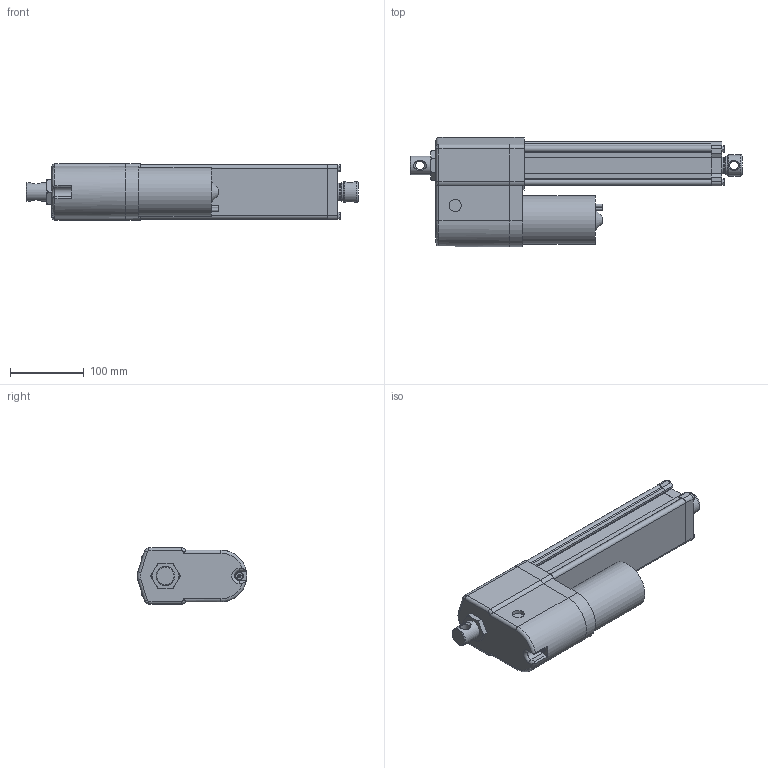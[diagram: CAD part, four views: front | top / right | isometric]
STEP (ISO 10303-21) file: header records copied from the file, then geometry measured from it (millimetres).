
FILE_DESCRIPTION( ( 'STEP AP203' ), '1' );
FILE_NAME( 'p:/temp/worker_286/temp/exporttempdir_3228_895_gUusm/format_0/DA24-21B65M15M0NPO-AMM.stp', '2020-04-12T18:21:58', ( 'License CC BY-ND 4.0' ), ( 'CADENAS' ), ' ', 'PARTsolutions', ' ' );
FILE_SCHEMA( ( 'CONFIG_CONTROL_DESIGN' ) );
Length unit declared in the file: millimetre
Products named in the file (8): DA24-21B65M15M0NPO-AMM; _ELECTRAK-LA14-DA24-21B65MM0NPO-15M-EU-REAR; _Electrak-10-EU-RA-D602700; _D602768eu; _ELECTRAK-LA14-DA24--MOTOR; _DA24-21B65M15M0NPOAMMtube; _ELECTRAK-LA14-DA24--15-PLATE; _ELECTRAK-LA14-DA24--1521B65MNPOM-ROD
Assembly tree (7 placements, depth 2):
  DA24-21B65M15M0NPO-AMM
    _ELECTRAK-LA14-DA24-21B65MM0NPO-15M-EU-REAR
    _Electrak-10-EU-RA-D602700
    _D602768eu
    _ELECTRAK-LA14-DA24--MOTOR
    _DA24-21B65M15M0NPOAMMtube
    _ELECTRAK-LA14-DA24--15-PLATE
    _ELECTRAK-LA14-DA24--1521B65MNPOM-ROD
Bounding box: 448.95 x 148 x 76.2 mm (x, y, z)
Volume: 1979456.7 mm3; surface area: 326526.9 mm2
Topology: 7 solids, 8 shells, 378 faces, 942 edges, 611 vertices
Faces by surface type: plane 184, cylinder 131, cone 45, torus 14, bspline 4
Full cylindrical faces by diameter (mm): 4 x2, 4.126 x1, 4.8 x5, 5 x5, 5.6 x4, 7.878 x4, 9.398 x1, 12.2 x2, 16 x1, 16.5 x1, 21.8 x1, 25.2 x1, 25.4 x1, 26.24 x1, 28.5 x1, 28.6 x2, 47.625 x1, 65.3 x1
Entity records: 11834 total; most frequent: CARTESIAN_POINT 2729, DIRECTION 1869, ORIENTED_EDGE 1744, EDGE_CURVE 872, AXIS2_PLACEMENT_3D 702, VERTEX_POINT 602, EDGE_LOOP 485, LINE 465
